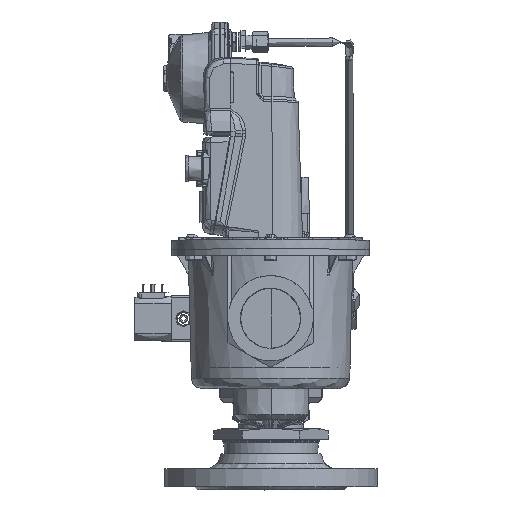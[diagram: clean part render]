
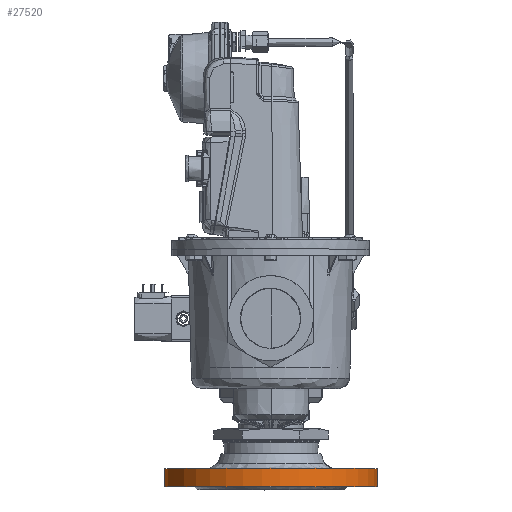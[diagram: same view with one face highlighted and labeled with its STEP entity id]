
A CAD part, top view. The second image highlights one B-rep face of the part: STEP entity #27520.
In plain terms, the highlighted cylindrical face has radius 100 mm (diameter 200 mm), a full revolution.
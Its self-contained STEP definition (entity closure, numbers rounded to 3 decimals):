
#5805 = CARTESIAN_POINT ( 'NONE',  ( 124.624, 108.844, -254.985 ) ) ;
#8955 = CIRCLE ( 'NONE', #69290, 100. ) ;
#27520 = ADVANCED_FACE ( 'NONE', ( #122317, #75974 ), #69825, .T. ) ;
#28681 = VERTEX_POINT ( 'NONE', #163406 ) ;
#35450 = AXIS2_PLACEMENT_3D ( 'NONE', #134341, #252708, #233128 ) ;
#51974 = DIRECTION ( 'NONE',  ( 0., 1., 0. ) ) ;
#63553 = ORIENTED_EDGE ( 'NONE', *, *, #138554, .F. ) ;
#69290 = AXIS2_PLACEMENT_3D ( 'NONE', #169974, #51974, #189742 ) ;
#69825 = CYLINDRICAL_SURFACE ( 'NONE', #35450, 100. ) ;
#73830 = EDGE_LOOP ( 'NONE', ( #63553 ) ) ;
#75974 = FACE_OUTER_BOUND ( 'NONE', #229731, .T. ) ;
#98736 = AXIS2_PLACEMENT_3D ( 'NONE', #228692, #110909, #248299 ) ;
#110909 = DIRECTION ( 'NONE',  ( 0., 1., 0. ) ) ;
#122317 = FACE_OUTER_BOUND ( 'NONE', #73830, .T. ) ;
#134341 = CARTESIAN_POINT ( 'NONE',  ( 53.913, 88.844, -325.696 ) ) ;
#138554 = EDGE_CURVE ( 'NONE', #185791, #185791, #188286, .T. ) ;
#141710 = EDGE_CURVE ( 'NONE', #28681, #28681, #8955, .T. ) ;
#163406 = CARTESIAN_POINT ( 'NONE',  ( 124.624, 91.844, -254.985 ) ) ;
#169974 = CARTESIAN_POINT ( 'NONE',  ( 53.913, 91.844, -325.696 ) ) ;
#185791 = VERTEX_POINT ( 'NONE', #5805 ) ;
#188286 = CIRCLE ( 'NONE', #98736, 100. ) ;
#189742 = DIRECTION ( 'NONE',  ( 0.707, 0., 0.707 ) ) ;
#192307 = ORIENTED_EDGE ( 'NONE', *, *, #141710, .T. ) ;
#228692 = CARTESIAN_POINT ( 'NONE',  ( 53.913, 108.844, -325.696 ) ) ;
#229731 = EDGE_LOOP ( 'NONE', ( #192307 ) ) ;
#233128 = DIRECTION ( 'NONE',  ( 0.707, 0., 0.707 ) ) ;
#248299 = DIRECTION ( 'NONE',  ( 0.707, 0., 0.707 ) ) ;
#252708 = DIRECTION ( 'NONE',  ( 0., 1., 0. ) ) ;
